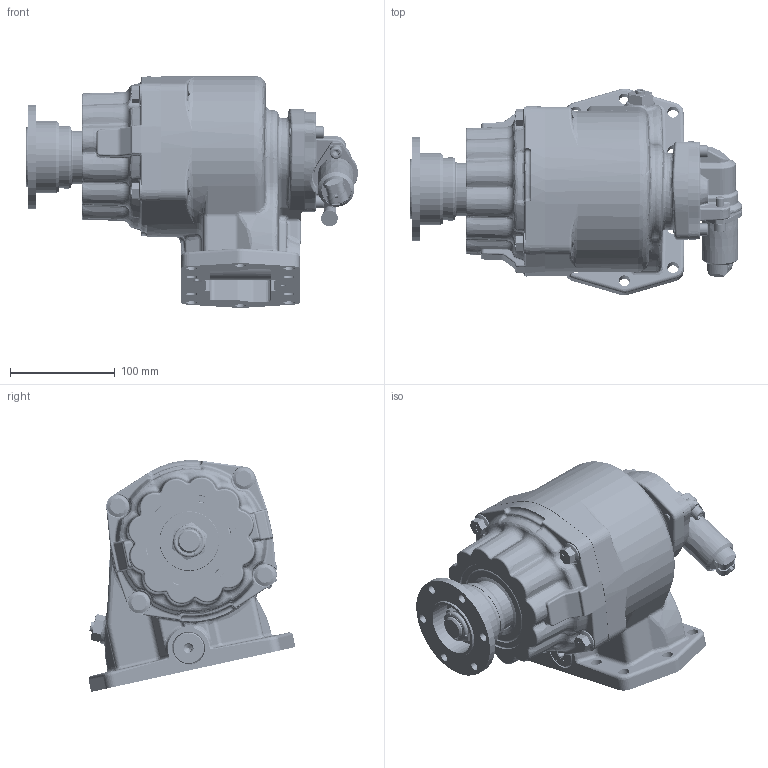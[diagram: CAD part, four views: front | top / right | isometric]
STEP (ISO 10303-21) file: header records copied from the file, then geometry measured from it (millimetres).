
FILE_DESCRIPTION(/* description */ ('PTO ASSEMBLY-871'),/* implementation_level */ '2;1');
FILE_NAME(/* name */ 'C:\CAD_Work\Designs\CHD\CHD-Unrestricted\WR-747 CAD DWG''S FOR FD\WIP\871-Series\STEP FILES & PICS\871-3AC.stp',/* time_stamp */ '2024-04-08T17:18:49+06:00',/* author */ ('GR00940517'),/* organization */ (''),/* preprocessor_version */ 'ST-DEVELOPER v18',/* originating_system */ 'Autodesk Inventor 2020',/* authorisation */ '');
FILE_SCHEMA (('AUTOMOTIVE_DESIGN { 1 0 10303 214 3 1 1 }'));
Products named in the file (26): 871-5AC; 1-P-817; 329463-12X; 34-P-143; 380123-12; 380124; 500897-5; 329724-1X; 3-P-1065; 22-P-112; 28-P-329; 9-P-99; 28-P-42; 378452-7; 378447-6; 379486; 379231; 379242; 21-P-932; 380563-14; 28-P-211; 380076-13; 379742; 380486; 68-P-51-1; 379564-2
Assembly tree (31 placements, depth 3):
  871-5AC
    1-P-817
    329463-12X
      34-P-143
      378447-6
      380123-12
      380124
      500897-5
    329724-1X
      3-P-1065
    22-P-112
    28-P-329
    9-P-99
    28-P-42
    378452-7
    378447-6  x3
    379486
    379231
    379242
    21-P-932
    380563-14  x4
    28-P-211
    380076-13
    379742
    380486
    68-P-51-1
    379564-2
Bounding box: 317.1 x 197.69 x 221.46 mm (x, y, z)
Volume: 2184008.4 mm3; surface area: 522899.8 mm2
Topology: 30 solids, 30 shells, 7648 faces, 19491 edges, 12108 vertices
Faces by surface type: plane 2867, bspline 2359, cylinder 1842, torus 305, cone 231, sphere 44
Full cylindrical faces by diameter (mm): 0.711 x1, 0.8 x1, 1.981 x1, 2.184 x2, 2.388 x1, 3.175 x10, 3.962 x1, 4.191 x1, 4.318 x1, 4.699 x2, 4.75 x1, 4.978 x1, 6.35 x4, 6.401 x3, 6.528 x1, 7.137 x1, 7.62 x1, 7.798 x5, 7.836 x12, 7.95 x1, 8.204 x6, 8.331 x1, 8.382 x1, 8.611 x1, 8.712 x3, 9.144 x2, 9.525 x12, 9.728 x1, 10.312 x6, 10.719 x8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
Entity records: 279080 total; most frequent: CARTESIAN_POINT 106710, ORIENTED_EDGE 37492, DIRECTION 29579, EDGE_CURVE 18746, VERTEX_POINT 11745, AXIS2_PLACEMENT_3D 10144, LINE 9291, VECTOR 9291
